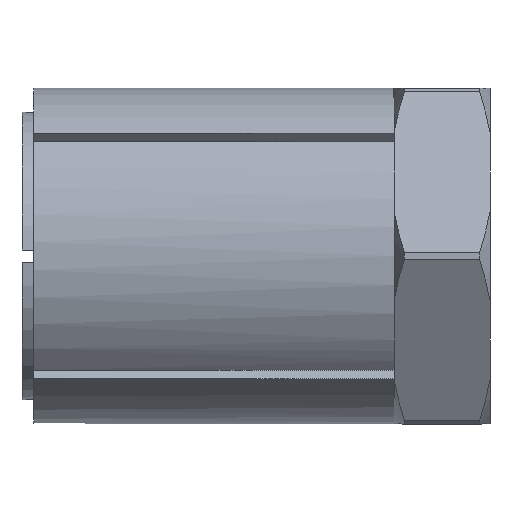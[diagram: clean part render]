
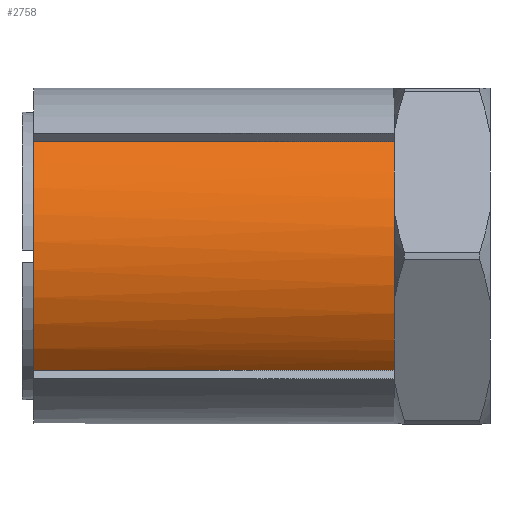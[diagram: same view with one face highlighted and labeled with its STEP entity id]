
A CAD part, front view. The second image highlights one B-rep face of the part: STEP entity #2758.
In plain terms, the highlighted cylindrical face has radius 7 mm (diameter 14 mm), a partial arc.
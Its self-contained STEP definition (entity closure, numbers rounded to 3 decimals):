
#181 = EDGE_CURVE ( 'NONE', #937, #907, #1601, .T. ) ;
#192 = EDGE_CURVE ( 'NONE', #937, #928, #1607, .T. ) ;
#193 = EDGE_CURVE ( 'NONE', #944, #905, #1615, .T. ) ;
#194 = EDGE_CURVE ( 'NONE', #905, #907, #1602, .T. ) ;
#195 = EDGE_CURVE ( 'NONE', #898, #944, #1617, .T. ) ;
#196 = EDGE_CURVE ( 'NONE', #928, #898, #1619, .T. ) ;
#275 = AXIS2_PLACEMENT_3D ( 'NONE', #2507, #2510, #2509 ) ;
#362 = AXIS2_PLACEMENT_3D ( 'NONE', #1994, #1996, #1997 ) ;
#364 = AXIS2_PLACEMENT_3D ( 'NONE', #1951, #1960, #1961 ) ;
#394 = AXIS2_PLACEMENT_3D ( 'NONE', #1991, #2001, #2002 ) ;
#399 = AXIS2_PLACEMENT_3D ( 'NONE', #1995, #2004, #2005 ) ;
#470 = ORIENTED_EDGE ( 'NONE', *, *, #195, .T. ) ;
#802 = ORIENTED_EDGE ( 'NONE', *, *, #193, .T. ) ;
#803 = ORIENTED_EDGE ( 'NONE', *, *, #194, .T. ) ;
#804 = ORIENTED_EDGE ( 'NONE', *, *, #181, .F. ) ;
#805 = ORIENTED_EDGE ( 'NONE', *, *, #192, .T. ) ;
#806 = ORIENTED_EDGE ( 'NONE', *, *, #196, .T. ) ;
#898 = VERTEX_POINT ( 'NONE', #2215 ) ;
#905 = VERTEX_POINT ( 'NONE', #2222 ) ;
#907 = VERTEX_POINT ( 'NONE', #2224 ) ;
#928 = VERTEX_POINT ( 'NONE', #2245 ) ;
#937 = VERTEX_POINT ( 'NONE', #2254 ) ;
#944 = VERTEX_POINT ( 'NONE', #2261 ) ;
#1601 = CIRCLE ( 'NONE', #364, 7. ) ;
#1602 = LINE ( 'NONE', #1998, #1606 ) ;
#1606 = VECTOR ( 'NONE', #1999, 1000. ) ;
#1607 = LINE ( 'NONE', #1992, #1612 ) ;
#1612 = VECTOR ( 'NONE', #1993, 1000. ) ;
#1615 = CIRCLE ( 'NONE', #362, 7. ) ;
#1617 = CIRCLE ( 'NONE', #394, 7. ) ;
#1619 = CIRCLE ( 'NONE', #399, 7. ) ;
#1774 = FACE_OUTER_BOUND ( 'NONE', #2836, .T. ) ;
#1782 = CYLINDRICAL_SURFACE ( 'NONE', #275, 7. ) ;
#1951 = CARTESIAN_POINT ( 'NONE',  ( 0., 0., 0. ) ) ;
#1960 = DIRECTION ( 'NONE',  ( -1., 0., 0. ) ) ;
#1961 = DIRECTION ( 'NONE',  ( 0., 0., 1. ) ) ;
#1991 = CARTESIAN_POINT ( 'NONE',  ( 15., 0., 0. ) ) ;
#1992 = CARTESIAN_POINT ( 'NONE',  ( 0., -5.123, -4.77 ) ) ;
#1993 = DIRECTION ( 'NONE',  ( 1., 0., 0. ) ) ;
#1994 = CARTESIAN_POINT ( 'NONE',  ( 15., 0., 0. ) ) ;
#1995 = CARTESIAN_POINT ( 'NONE',  ( 15., 0., 0. ) ) ;
#1996 = DIRECTION ( 'NONE',  ( -1., 0., 0. ) ) ;
#1997 = DIRECTION ( 'NONE',  ( 0., 0., 1. ) ) ;
#1998 = CARTESIAN_POINT ( 'NONE',  ( 0., -5.123, 4.77 ) ) ;
#1999 = DIRECTION ( 'NONE',  ( -1., 0., 0. ) ) ;
#2001 = DIRECTION ( 'NONE',  ( -1., 0., 0. ) ) ;
#2002 = DIRECTION ( 'NONE',  ( 0., 0., 1. ) ) ;
#2004 = DIRECTION ( 'NONE',  ( -1., 0., 0. ) ) ;
#2005 = DIRECTION ( 'NONE',  ( 0., 0., 1. ) ) ;
#2215 = CARTESIAN_POINT ( 'NONE',  ( 15., -6.062, -3.5 ) ) ;
#2222 = CARTESIAN_POINT ( 'NONE',  ( 15., -5.123, 4.77 ) ) ;
#2224 = CARTESIAN_POINT ( 'NONE',  ( 0., -5.123, 4.77 ) ) ;
#2245 = CARTESIAN_POINT ( 'NONE',  ( 15., -5.123, -4.77 ) ) ;
#2254 = CARTESIAN_POINT ( 'NONE',  ( 0., -5.123, -4.77 ) ) ;
#2261 = CARTESIAN_POINT ( 'NONE',  ( 15., -6.062, 3.5 ) ) ;
#2507 = CARTESIAN_POINT ( 'NONE',  ( 0., 0., 0. ) ) ;
#2509 = DIRECTION ( 'NONE',  ( 0., 0., 1. ) ) ;
#2510 = DIRECTION ( 'NONE',  ( -1., 0., 0. ) ) ;
#2758 = ADVANCED_FACE ( 'NONE', ( #1774 ), #1782, .T. ) ;
#2836 = EDGE_LOOP ( 'NONE', ( #802, #803, #804, #805, #806, #470 ) ) ;
